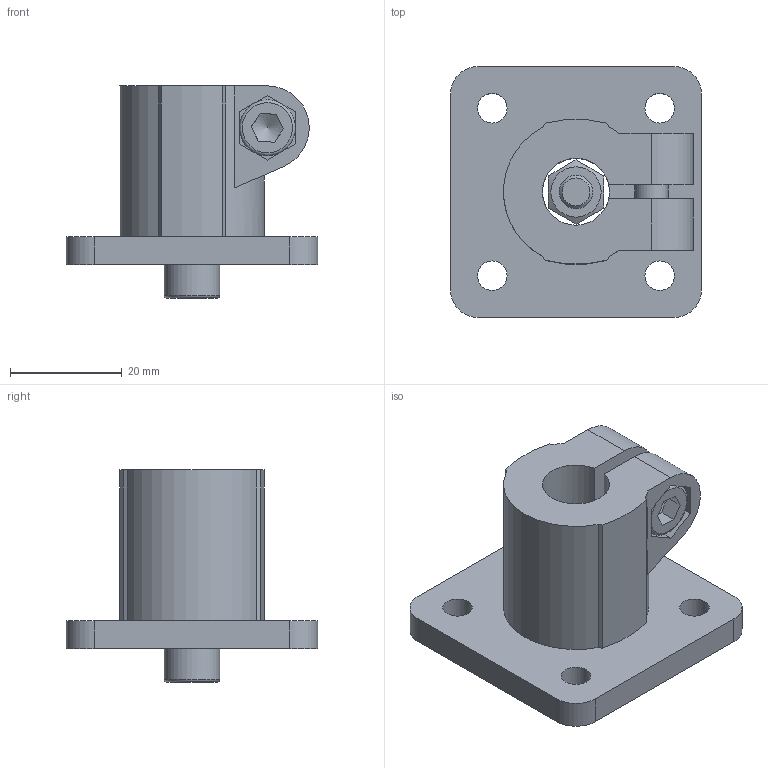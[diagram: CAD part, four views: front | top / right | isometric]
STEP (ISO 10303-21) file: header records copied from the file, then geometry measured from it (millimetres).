
FILE_DESCRIPTION( ( 'STEP AP214' ), '1' );
FILE_NAME( 'N:/Engineering/CAD_Solid/LVDT/Zubehör/Fußklemmstück 1218.stp', '2011-12-12T14:03:05', ( ' ' ), ( ' ' ), 'XStep 1.0', ' ', ' ' );
FILE_SCHEMA( ( 'CONFIG_CONTROL_DESIGN) ( )' ) );
Length unit declared in the file: metre
Products named in the file (4): Assem1; DIN912_M6x14; Mutter_DIN934_M6; Fu遦lemmst點k_D12
Bounding box: 45 x 45 x 38 mm (x, y, z)
Volume: 44173.1 mm3; surface area: 21313.9 mm2
Topology: 6 solids, 6 shells, 152 faces, 396 edges, 262 vertices
Faces by surface type: plane 96, cylinder 42, cone 12, torus 2
Full cylindrical faces by diameter (mm): 4.917 x2, 5.3 x8, 6 x2, 6.4 x4, 10 x2, 12 x2
Entity records: 2837 total; most frequent: CARTESIAN_POINT 567, DIRECTION 368, ORIENTED_EDGE 350, EDGE_CURVE 175, AXIS2_PLACEMENT_3D 131, VERTEX_POINT 126, EDGE_LOOP 112, LINE 106
